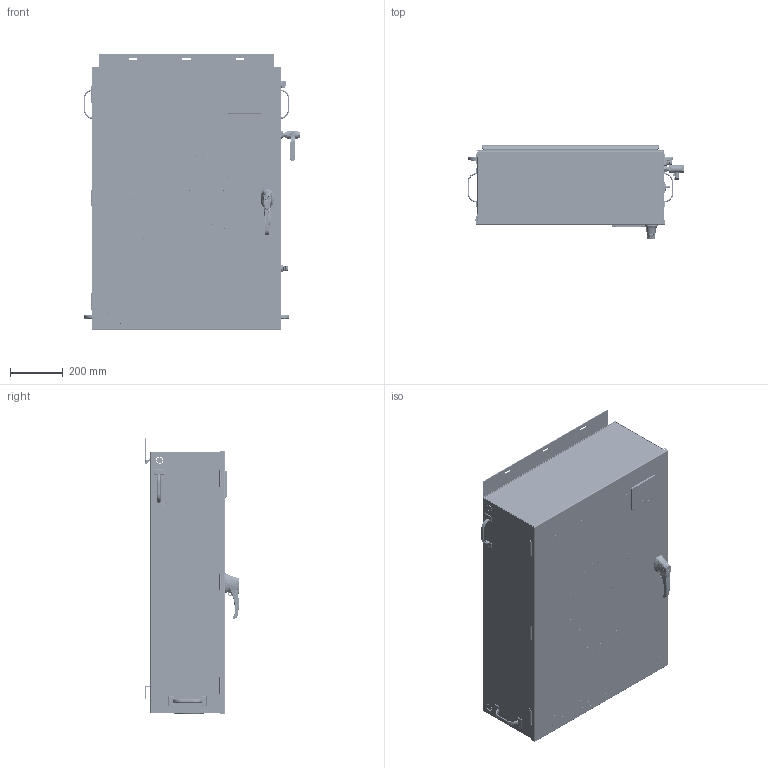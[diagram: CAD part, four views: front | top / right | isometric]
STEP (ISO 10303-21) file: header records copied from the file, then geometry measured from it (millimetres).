
FILE_DESCRIPTION(/* description */ (''),/* implementation_level */ '2;1');
FILE_NAME(/* name */ 'AG-2000.stp',/* time_stamp */ '2023-08-14T15:38:43-05:00',/* author */ ('atroll'),/* organization */ (''),/* preprocessor_version */ 'ST-DEVELOPER v19.2',/* originating_system */ 'Autodesk Inventor 2023',/* authorisation */ '');
FILE_SCHEMA (('AUTOMOTIVE_DESIGN { 1 0 10303 214 3 1 1 }'));
Products named in the file (1): AG-2000_Simplified
Bounding box: 823.15 x 356.45 x 1049.21 mm (x, y, z)
Volume: 6919631.9 mm3; surface area: 6850326.7 mm2
Topology: 29 solids, 52 shells, 8940 faces, 24158 edges, 15531 vertices
Faces by surface type: plane 5683, cylinder 1614, bspline 997, cone 314, torus 239, sphere 93
Full cylindrical faces by diameter (mm): 0.434 x1, 0.61 x9, 1.219 x9, 1.4 x3, 1.5 x2, 1.8 x18, 2 x2, 2.157 x2, 2.286 x6, 2.311 x8, 2.5 x4, 2.54 x2, 2.8 x2, 3 x16, 3.175 x7, 3.2 x4, 3.302 x4, 3.5 x7, 3.7 x4, 3.8 x2, 4.1 x3, 4.2 x1, 4.3 x1, 4.318 x2, 4.496 x8, 4.826 x4, 4.978 x1, 5 x1, 5.156 x4, 5.6 x4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
Entity records: 346948 total; most frequent: CARTESIAN_POINT 117815, ORIENTED_EDGE 48292, DIRECTION 41691, EDGE_CURVE 24146, LINE 16749, VECTOR 16749, VERTEX_POINT 15547, AXIS2_PLACEMENT_3D 12471
